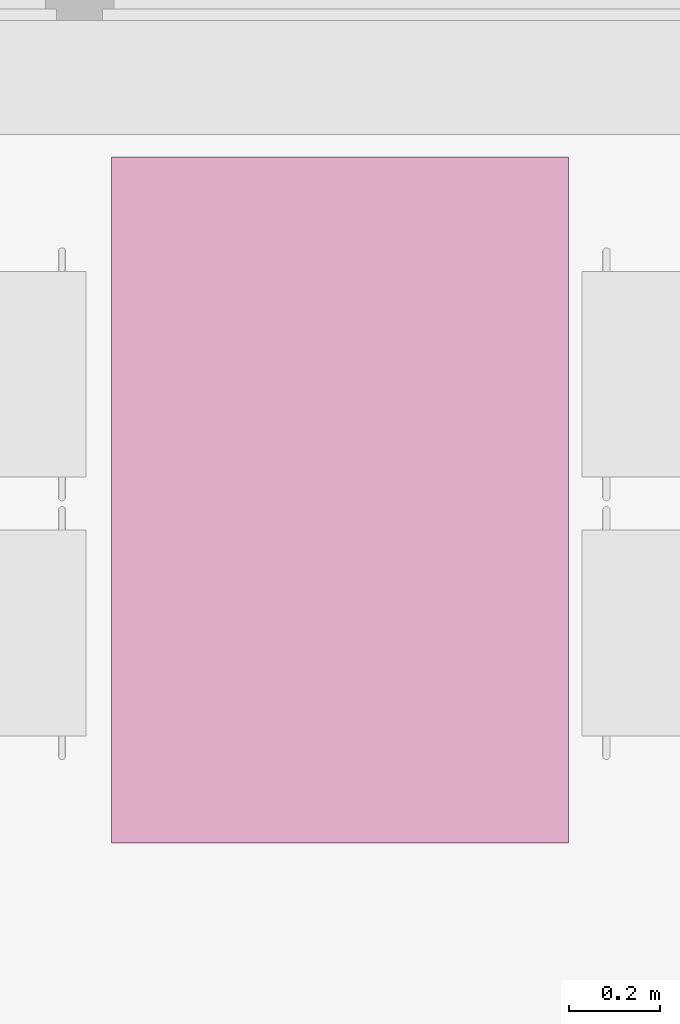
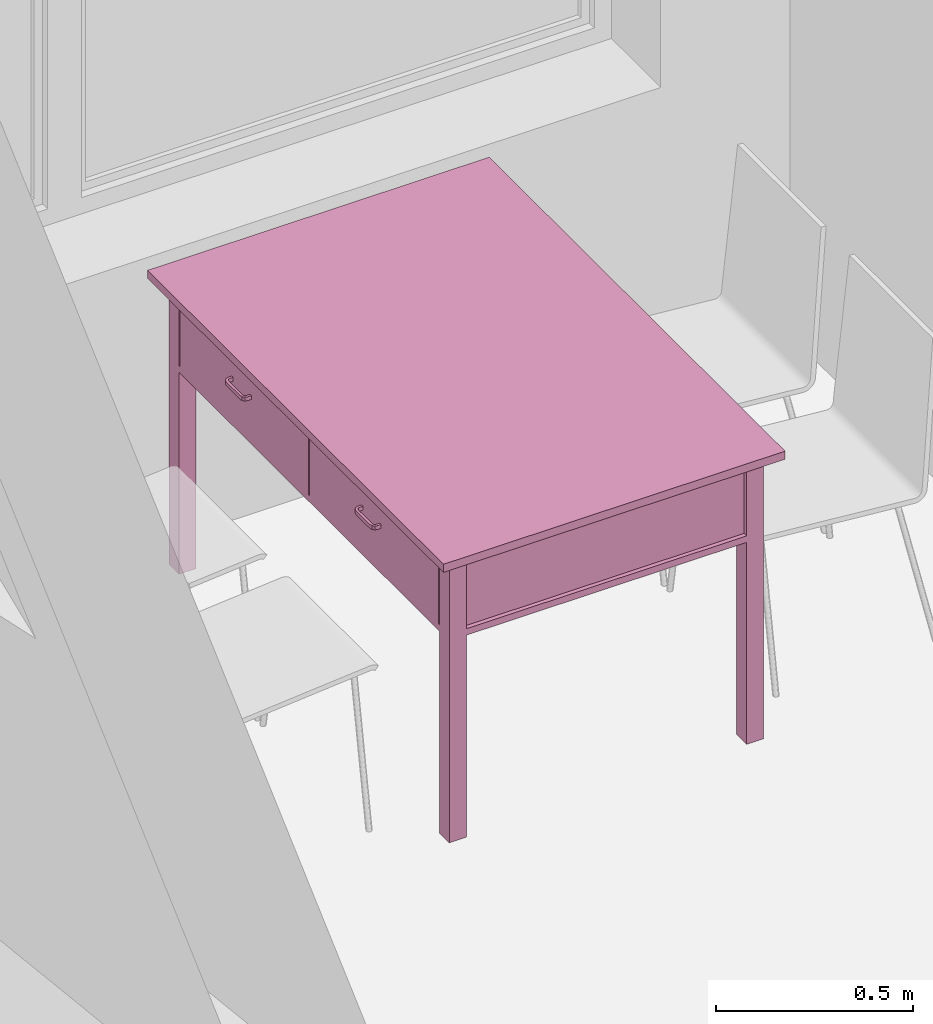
# One storey, part 87 of 172: 1 furnishing.
"""IFC2X3 building model written with IfcOpenShell, lengths in millimetres."""

from ifc_helpers import new_model, entity, si_unit, converted_unit, money_unit, direction, frame, origin_with_axes, place, context, subcontext, project, spatial, faceted_brep, source, transform, mapped, material, material_list, type_object, element, save


model = new_model("IFC2X3")

# Units and contexts
model_context = context("Model", 3, precision=1e-05, world=origin_with_axes(), true_north=direction((0.0, 1.0)))
body_context = subcontext(model_context, "Body", "Model", "MODEL_VIEW")
ifc_project = project(units=[si_unit("LENGTHUNIT", "METRE", prefix="MILLI"), si_unit("AREAUNIT", "SQUARE_METRE"), si_unit("VOLUMEUNIT", "CUBIC_METRE"), converted_unit("PLANEANGLEUNIT", "DEGREE", entity("IfcPlaneAngleMeasure", 0.0174532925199), si_unit("PLANEANGLEUNIT", "RADIAN"), dimensions=[0, 0, 0, 0, 0, 0, 0]), si_unit("SOLIDANGLEUNIT", "STERADIAN"), money_unit("USD"), converted_unit("TIMEUNIT", "Year", entity("IfcTimeMeasure", 31556926.0), si_unit("TIMEUNIT", "SECOND"), dimensions=[0, 0, 0, 0, 0, 0, 0]), si_unit("MASSUNIT", "GRAM"), si_unit("THERMODYNAMICTEMPERATUREUNIT", "DEGREE_CELSIUS"), si_unit("LUMINOUSINTENSITYUNIT", "LUMEN")], contexts=[model_context])

# Site, building, storey
site_placement = place(None, origin_with_axes())
site = spatial("IfcSite", under=ifc_project, at=site_placement, Name="Site", CompositionType="ELEMENT")
building_placement = place(site_placement, origin_with_axes())
building = spatial("IfcBuilding", under=site, at=building_placement, Name="Building", CompositionType="ELEMENT")
storey_placement = place(building_placement, frame((0.0, 0.0, 3200.0), z_axis=(0.0, 0.0, 1.0), x_axis=(1.0, 0.0, 0.0)))
storey = spatial("IfcBuildingStorey", under=building, at=storey_placement, Name="3KORRUS", CompositionType="ELEMENT", Elevation=3200.0)

# Furnishing
ifc_material = material(Name="Background")
ifc_material_list = material_list([ifc_material])
furnishing_element_type = type_object("IfcFurnishingElementType", Name="Rectangular Table 01 19")
shared_shape = source(origin_with_axes(), body_context, "Body", "Brep", [
    faceted_brep([(90.0, 40.0, 0.0), (40.0, 40.0, 0.0), (40.0, 90.0, 0.0), (90.0, 90.0, 0.0), (90.0, 40.0, 875.0), (40.0, 40.0, 875.0), (40.0, 90.0, 875.0), (90.0, 90.0, 875.0)], [[[0, 1, 2, 3]], [[1, 0, 4, 5]], [[2, 1, 5, 6]], [[3, 2, 6, 7]], [[0, 3, 7, 4]], [[5, 4, 7, 6]]]),
    faceted_brep([(1460.0, 40.0, 0.0), (1410.0, 40.0, 0.0), (1410.0, 90.0, 0.0), (1460.0, 90.0, 0.0), (1460.0, 40.0, 875.0), (1410.0, 40.0, 875.0), (1410.0, 90.0, 875.0), (1460.0, 90.0, 875.0)], [[[0, 1, 2, 3]], [[1, 0, 4, 5]], [[2, 1, 5, 6]], [[3, 2, 6, 7]], [[0, 3, 7, 4]], [[5, 4, 7, 6]]]),
    faceted_brep([(90.0, 910.0, 0.0), (40.0, 910.0, 0.0), (40.0, 960.0, 0.0), (90.0, 960.0, 0.0), (90.0, 910.0, 875.0), (40.0, 910.0, 875.0), (40.0, 960.0, 875.0), (90.0, 960.0, 875.0)], [[[0, 1, 2, 3]], [[1, 0, 4, 5]], [[2, 1, 5, 6]], [[3, 2, 6, 7]], [[0, 3, 7, 4]], [[5, 4, 7, 6]]]),
    faceted_brep([(1460.0, 910.0, 0.0), (1410.0, 910.0, 0.0), (1410.0, 960.0, 0.0), (1460.0, 960.0, 0.0), (1460.0, 910.0, 875.0), (1410.0, 910.0, 875.0), (1410.0, 960.0, 875.0), (1460.0, 960.0, 875.0)], [[[0, 1, 2, 3]], [[1, 0, 4, 5]], [[2, 1, 5, 6]], [[3, 2, 6, 7]], [[0, 3, 7, 4]], [[5, 4, 7, 6]]]),
    faceted_brep([(1460.0, 40.0, 625.0), (40.0, 40.0, 625.0), (40.0, 960.0, 625.0), (1460.0, 960.0, 625.0), (1460.0, 40.0, 645.0), (40.0, 40.0, 645.0), (40.0, 960.0, 645.0), (1460.0, 960.0, 645.0)], [[[0, 1, 2, 3]], [[1, 0, 4, 5]], [[2, 1, 5, 6]], [[3, 2, 6, 7]], [[0, 3, 7, 4]], [[5, 4, 7, 6]]]),
    faceted_brep([(1410.0, 52.5, 645.0), (90.0, 52.5, 645.0), (90.0, 77.5, 645.0), (1410.0, 77.5, 645.0), (1410.0, 52.5, 895.0), (90.0, 52.5, 895.0), (90.0, 77.5, 895.0), (1410.0, 77.5, 895.0)], [[[0, 1, 2, 3]], [[1, 0, 4, 5]], [[2, 1, 5, 6]], [[3, 2, 6, 7]], [[0, 3, 7, 4]], [[5, 4, 7, 6]]]),
    faceted_brep([(77.5, 90.0, 645.0), (52.5, 90.0, 645.0), (52.5, 910.0, 645.0), (77.5, 910.0, 645.0), (77.5, 90.0, 895.0), (52.5, 90.0, 895.0), (52.5, 910.0, 895.0), (77.5, 910.0, 895.0)], [[[0, 1, 2, 3]], [[1, 0, 4, 5]], [[2, 1, 5, 6]], [[3, 2, 6, 7]], [[0, 3, 7, 4]], [[5, 4, 7, 6]]]),
    faceted_brep([(90.0, 947.5, 645.0), (1410.0, 947.5, 645.0), (1410.0, 922.5, 645.0), (90.0, 922.5, 645.0), (90.0, 947.5, 895.0), (1410.0, 947.5, 895.0), (1410.0, 922.5, 895.0), (90.0, 922.5, 895.0)], [[[0, 1, 2, 3]], [[1, 0, 4, 5]], [[2, 1, 5, 6]], [[3, 2, 6, 7]], [[0, 3, 7, 4]], [[5, 4, 7, 6]]]),
    faceted_brep([(1422.5, 910.0, 645.0), (1447.5, 910.0, 645.0), (1447.5, 90.0, 645.0), (1422.5, 90.0, 645.0), (1422.5, 910.0, 895.0), (1447.5, 910.0, 895.0), (1447.5, 90.0, 895.0), (1422.5, 90.0, 895.0)], [[[0, 1, 2, 3]], [[1, 0, 4, 5]], [[2, 1, 5, 6]], [[3, 2, 6, 7]], [[0, 3, 7, 4]], [[5, 4, 7, 6]]]),
    faceted_brep([(747.5, 40.0, 645.0), (95.0, 40.0, 645.0), (95.0, 60.0, 645.0), (747.5, 60.0, 645.0), (747.5, 40.0, 895.0), (95.0, 40.0, 895.0), (95.0, 60.0, 895.0), (747.5, 60.0, 895.0)], [[[0, 1, 2, 3]], [[1, 0, 4, 5]], [[2, 1, 5, 6]], [[3, 2, 6, 7]], [[0, 3, 7, 4]], [[5, 4, 7, 6]]]),
    faceted_brep([(1405.0, 40.0, 645.0), (752.5, 40.0, 645.0), (752.5, 60.0, 645.0), (1405.0, 60.0, 645.0), (1405.0, 40.0, 895.0), (752.5, 40.0, 895.0), (752.5, 60.0, 895.0), (1405.0, 60.0, 895.0)], [[[0, 1, 2, 3]], [[1, 0, 4, 5]], [[2, 1, 5, 6]], [[3, 2, 6, 7]], [[0, 3, 7, 4]], [[5, 4, 7, 6]]]),
    faceted_brep([(442.75, 22.0, 776.0), (446.75, 23.072, 776.0), (446.75, 23.072, 764.0), (442.75, 22.0, 764.0), (372.75, 22.0, 776.0), (368.75, 23.072, 776.0), (365.822, 26.0, 776.0), (364.75, 30.0, 776.0), (364.75, 40.0, 776.0), (357.75, 40.0, 776.0), (357.75, 30.0, 776.0), (359.76, 22.5, 776.0), (365.25, 17.01, 776.0), (372.75, 15.0, 776.0), (442.75, 15.0, 776.0), (450.25, 17.01, 776.0), (455.74, 22.5, 776.0), (457.75, 30.0, 776.0), (457.75, 40.0, 776.0), (450.75, 40.0, 776.0), (450.75, 30.0, 776.0), (449.678, 26.0, 776.0), (449.678, 26.0, 764.0), (450.75, 30.0, 764.0), (450.75, 40.0, 764.0), (457.75, 40.0, 764.0), (457.75, 30.0, 764.0), (455.74, 22.5, 764.0), (450.25, 17.01, 764.0), (442.75, 15.0, 764.0), (372.75, 15.0, 764.0), (365.25, 17.01, 764.0), (359.76, 22.5, 764.0), (357.75, 30.0, 764.0), (357.75, 40.0, 764.0), (364.75, 40.0, 764.0), (364.75, 30.0, 764.0), (365.822, 26.0, 764.0), (368.75, 23.072, 764.0), (372.75, 22.0, 764.0)], [[[0, 1, 2, 3]], [[0, 4, 5, 6, 7, 8, 9, 10, 11, 12, 13, 14, 15, 16, 17, 18, 19, 20, 21, 1]], [[1, 21, 22, 2]], [[3, 2, 22, 23, 24, 25, 26, 27, 28, 29, 30, 31, 32, 33, 34, 35, 36, 37, 38, 39]], [[4, 0, 3, 39]], [[5, 4, 39, 38]], [[6, 5, 38, 37]], [[7, 6, 37, 36]], [[8, 7, 36, 35]], [[9, 8, 35, 34]], [[10, 9, 34, 33]], [[11, 10, 33, 32]], [[12, 11, 32, 31]], [[13, 12, 31, 30]], [[14, 13, 30, 29]], [[15, 14, 29, 28]], [[16, 15, 28, 27]], [[17, 16, 27, 26]], [[18, 17, 26, 25]], [[19, 18, 25, 24]], [[20, 19, 24, 23]], [[21, 20, 23, 22]]]),
    faceted_brep([(1100.25, 22.0, 776.0), (1104.25, 23.072, 776.0), (1104.25, 23.072, 764.0), (1100.25, 22.0, 764.0), (1030.25, 22.0, 776.0), (1026.25, 23.072, 776.0), (1023.322, 26.0, 776.0), (1022.25, 30.0, 776.0), (1022.25, 40.0, 776.0), (1015.25, 40.0, 776.0), (1015.25, 30.0, 776.0), (1017.26, 22.5, 776.0), (1022.75, 17.01, 776.0), (1030.25, 15.0, 776.0), (1100.25, 15.0, 776.0), (1107.75, 17.01, 776.0), (1113.24, 22.5, 776.0), (1115.25, 30.0, 776.0), (1115.25, 40.0, 776.0), (1108.25, 40.0, 776.0), (1108.25, 30.0, 776.0), (1107.178, 26.0, 776.0), (1107.178, 26.0, 764.0), (1108.25, 30.0, 764.0), (1108.25, 40.0, 764.0), (1115.25, 40.0, 764.0), (1115.25, 30.0, 764.0), (1113.24, 22.5, 764.0), (1107.75, 17.01, 764.0), (1100.25, 15.0, 764.0), (1030.25, 15.0, 764.0), (1022.75, 17.01, 764.0), (1017.26, 22.5, 764.0), (1015.25, 30.0, 764.0), (1015.25, 40.0, 764.0), (1022.25, 40.0, 764.0), (1022.25, 30.0, 764.0), (1023.322, 26.0, 764.0), (1026.25, 23.072, 764.0), (1030.25, 22.0, 764.0)], [[[0, 1, 2, 3]], [[0, 4, 5, 6, 7, 8, 9, 10, 11, 12, 13, 14, 15, 16, 17, 18, 19, 20, 21, 1]], [[1, 21, 22, 2]], [[3, 2, 22, 23, 24, 25, 26, 27, 28, 29, 30, 31, 32, 33, 34, 35, 36, 37, 38, 39]], [[4, 0, 3, 39]], [[5, 4, 39, 38]], [[6, 5, 38, 37]], [[7, 6, 37, 36]], [[8, 7, 36, 35]], [[9, 8, 35, 34]], [[10, 9, 34, 33]], [[11, 10, 33, 32]], [[12, 11, 32, 31]], [[13, 12, 31, 30]], [[14, 13, 30, 29]], [[15, 14, 29, 28]], [[16, 15, 28, 27]], [[17, 16, 27, 26]], [[18, 17, 26, 25]], [[19, 18, 25, 24]], [[20, 19, 24, 23]], [[21, 20, 23, 22]]]),
    faceted_brep([(1500.0, 0.0, 875.0), (0.0, 0.0, 875.0), (0.0, 1000.0, 875.0), (1500.0, 1000.0, 875.0), (1500.0, 0.0, 900.0), (0.0, 0.0, 900.0), (0.0, 1000.0, 900.0), (1500.0, 1000.0, 900.0)], [[[0, 1, 2, 3]], [[1, 0, 4, 5]], [[2, 1, 5, 6]], [[3, 2, 6, 7]], [[0, 3, 7, 4]], [[5, 4, 7, 6]]]),
])
furnishing_placement = place(storey_placement, frame((-50199.5865895, -5189.0312423, 0.0), z_axis=(0.0, 0.0, 1.0), x_axis=(0.0, -1.0, 0.0)))
element("IfcFurnishingElement", 1, at=furnishing_placement, inside=storey, type_object=furnishing_element_type, material=ifc_material_list, Name="FU - 011", context=body_context, shape_type="MappedRepresentation", body=[
    mapped(shared_shape, transform((0.0, 0.0, 0.0))),
])

save(model, "model.ifc")
